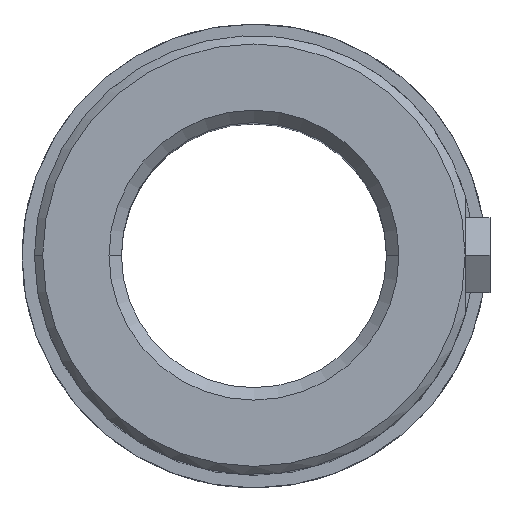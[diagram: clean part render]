
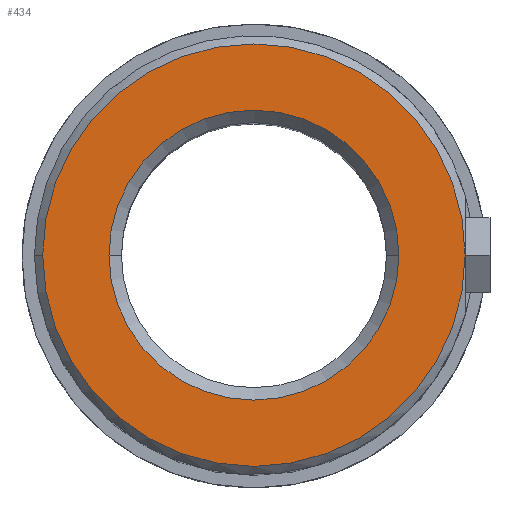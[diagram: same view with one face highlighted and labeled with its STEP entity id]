
A CAD part, top view. The second image highlights one B-rep face of the part: STEP entity #434.
In plain terms, the highlighted planar face has unit normal (0, 0, 1).
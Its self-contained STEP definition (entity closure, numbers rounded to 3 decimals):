
#316=CARTESIAN_POINT('Axis2P3D Location',(0.,0.,63.)) ;
#320=CARTESIAN_POINT('Vertex',(17.5,0.,63.)) ;
#322=CARTESIAN_POINT('Vertex',(-17.5,0.,63.)) ;
#378=CARTESIAN_POINT('Axis2P3D Location',(0.,0.,63.)) ;
#407=CARTESIAN_POINT('Axis2P3D Location',(17.5,0.,63.)) ;
#412=CARTESIAN_POINT('Axis2P3D Location',(0.,0.,63.)) ;
#416=CARTESIAN_POINT('Vertex',(25.5,0.,63.)) ;
#418=CARTESIAN_POINT('Vertex',(-25.5,0.,63.)) ;
#421=CARTESIAN_POINT('Axis2P3D Location',(0.,0.,63.)) ;
#317=DIRECTION('Axis2P3D Direction',(0.,-0.,1.)) ;
#379=DIRECTION('Axis2P3D Direction',(0.,-0.,1.)) ;
#408=DIRECTION('Axis2P3D Direction',(0.,-0.,1.)) ;
#409=DIRECTION('Axis2P3D XDirection',(1.,0.,0.)) ;
#413=DIRECTION('Axis2P3D Direction',(0.,-0.,1.)) ;
#422=DIRECTION('Axis2P3D Direction',(0.,-0.,1.)) ;
#318=AXIS2_PLACEMENT_3D('Circle Axis2P3D',#316,#317,$) ;
#380=AXIS2_PLACEMENT_3D('Circle Axis2P3D',#378,#379,$) ;
#410=AXIS2_PLACEMENT_3D('Plane Axis2P3D',#407,#408,#409) ;
#414=AXIS2_PLACEMENT_3D('Circle Axis2P3D',#412,#413,$) ;
#423=AXIS2_PLACEMENT_3D('Circle Axis2P3D',#421,#422,$) ;
#427=ORIENTED_EDGE('',*,*,#420,.T.) ;
#428=ORIENTED_EDGE('',*,*,#425,.T.) ;
#431=ORIENTED_EDGE('',*,*,#382,.F.) ;
#432=ORIENTED_EDGE('',*,*,#324,.F.) ;
#433=FACE_BOUND('',#430,.T.) ;
#434=ADVANCED_FACE('742-32',(#429,#433),#411,.T.) ;
#319=CIRCLE('generated circle',#318,17.5) ;
#381=CIRCLE('generated circle',#380,17.5) ;
#415=CIRCLE('generated circle',#414,25.5) ;
#424=CIRCLE('generated circle',#423,25.5) ;
#324=EDGE_CURVE('',#321,#323,#319,.T.) ;
#382=EDGE_CURVE('',#323,#321,#381,.T.) ;
#420=EDGE_CURVE('',#417,#419,#415,.T.) ;
#425=EDGE_CURVE('',#419,#417,#424,.T.) ;
#426=EDGE_LOOP('',(#427,#428)) ;
#430=EDGE_LOOP('',(#431,#432)) ;
#429=FACE_OUTER_BOUND('',#426,.T.) ;
#411=PLANE('Plane',#410) ;
#321=VERTEX_POINT('',#320) ;
#323=VERTEX_POINT('',#322) ;
#417=VERTEX_POINT('',#416) ;
#419=VERTEX_POINT('',#418) ;
